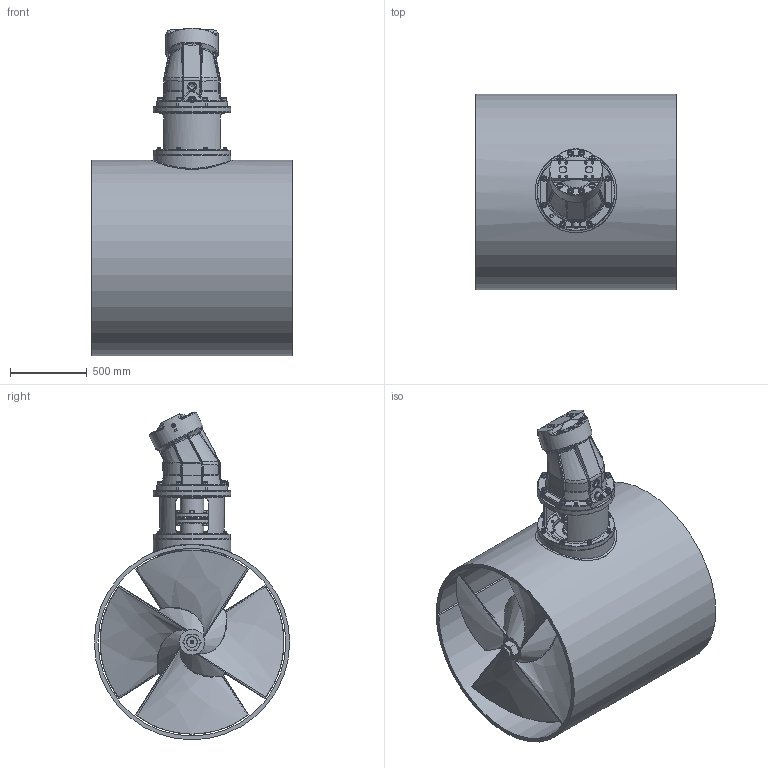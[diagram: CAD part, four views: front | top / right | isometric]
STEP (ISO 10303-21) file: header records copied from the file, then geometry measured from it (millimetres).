
FILE_DESCRIPTION(/* description */ (''),/* implementation_level */ '2;1');
FILE_NAME(/* name */ 'Q:\THRUSTERS\THRUSTER SALES & SUPPORT DOCS\THRUSTER Sales\H-T\H-1200-T\H-1200-T_Shrinkwrap_1.stp',/* time_stamp */ '2020-03-04T15:48:28+00:00',/* author */ ('Jordan.Griffith'),/* organization */ (''),/* preprocessor_version */ 'ST-DEVELOPER v17',/* originating_system */ 'Autodesk Inventor 2019',/* authorisation */ '');
FILE_SCHEMA (('AUTOMOTIVE_DESIGN { 1 0 10303 214 3 1 1 }'));
Products named in the file (1): H-1200-T_Shrinkwrap_1
Bounding box: 1310.5 x 1269.16 x 2127.86 mm (x, y, z)
Volume: 303592709.4 mm3; surface area: 25110523.3 mm2
Topology: 82 solids, 82 shells, 2905 faces, 7799 edges, 5175 vertices
Faces by surface type: cylinder 1226, plane 790, cone 344, torus 300, bspline 231, sphere 14
Full cylindrical faces by diameter (mm): 4 x2, 5 x2, 6 x4, 6.2 x8, 6.5 x40, 8 x2, 8.5 x4, 10 x4, 10.25 x32, 10.3 x4, 11 x8, 12 x10, 12.5 x4, 13 x32, 14 x4, 16 x8, 16.5 x8, 17 x12, 17.5 x18, 18 x10, 19 x30, 20 x26, 20.5 x8, 20.75 x1, 20.752 x2, 22 x8, 22.01 x8, 23.75 x2, 24 x9, 25 x3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
Entity records: 118612 total; most frequent: CARTESIAN_POINT 42591, DIRECTION 15598, ORIENTED_EDGE 15368, EDGE_CURVE 7684, AXIS2_PLACEMENT_3D 6601, VERTEX_POINT 5175, CIRCLE 3882, EDGE_LOOP 3479
